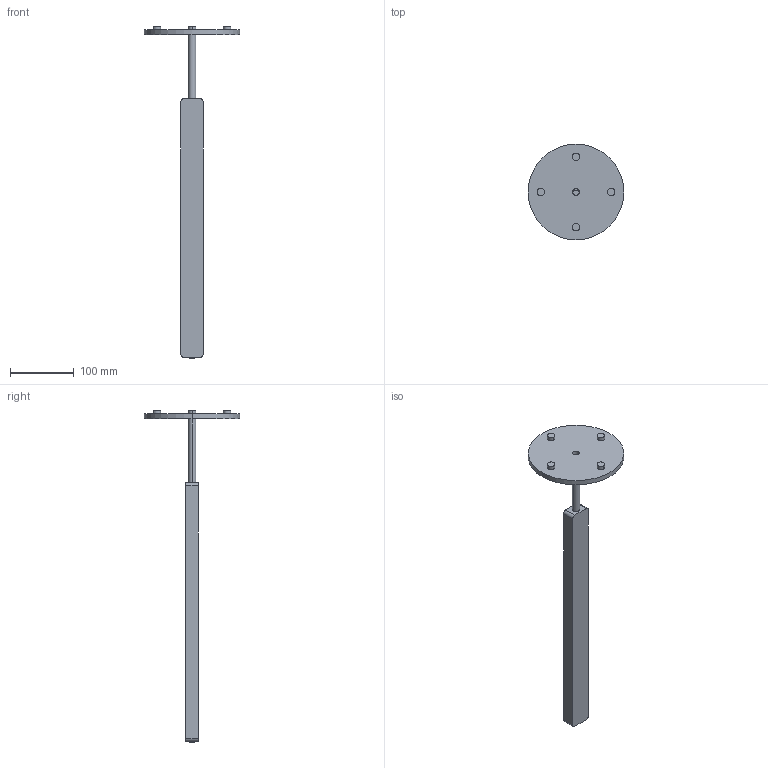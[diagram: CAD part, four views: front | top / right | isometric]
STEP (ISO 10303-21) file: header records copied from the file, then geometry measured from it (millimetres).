
FILE_DESCRIPTION((''),'2;1');
FILE_NAME('HUTAOM-Z_ASM','2026-05-30T',('叶琼'),(''),'PRO/ENGINEER BY PARAMETRIC TECHNOLOGY CORPORATION, 2012300','PRO/ENGINEER BY PARAMETRIC TECHNOLOGY CORPORATION, 2012300','');
FILE_SCHEMA(('CONFIG_CONTROL_DESIGN'));
Length unit declared in the file: millimetre
Products named in the file (9): CHAO; HUTAOM; GAI-Z; TOUJ-D; PCB-395; GANYIN; 12; 150; HUTAOM-Z_ASM
Assembly tree (19 placements, depth 2):
  HUTAOM-Z_ASM
    CHAO
    HUTAOM
    GAI-Z
    TOUJ-D  x12
    PCB-395
    GANYIN
    12
    150
Bounding box: 150 x 150 x 520.05 mm (x, y, z)
Volume: 408580.4 mm3; surface area: 163928.5 mm2
Topology: 19 solids, 19 shells, 274 faces, 637 edges, 404 vertices
Faces by surface type: cylinder 122, plane 102, revolution 26, cone 24
Entity records: 6606 total; most frequent: DIRECTION 1198, CARTESIAN_POINT 1147, ORIENTED_EDGE 1006, EDGE_CURVE 503, AXIS2_PLACEMENT_3D 463, VERTEX_POINT 327, EDGE_LOOP 272, VECTOR 268
